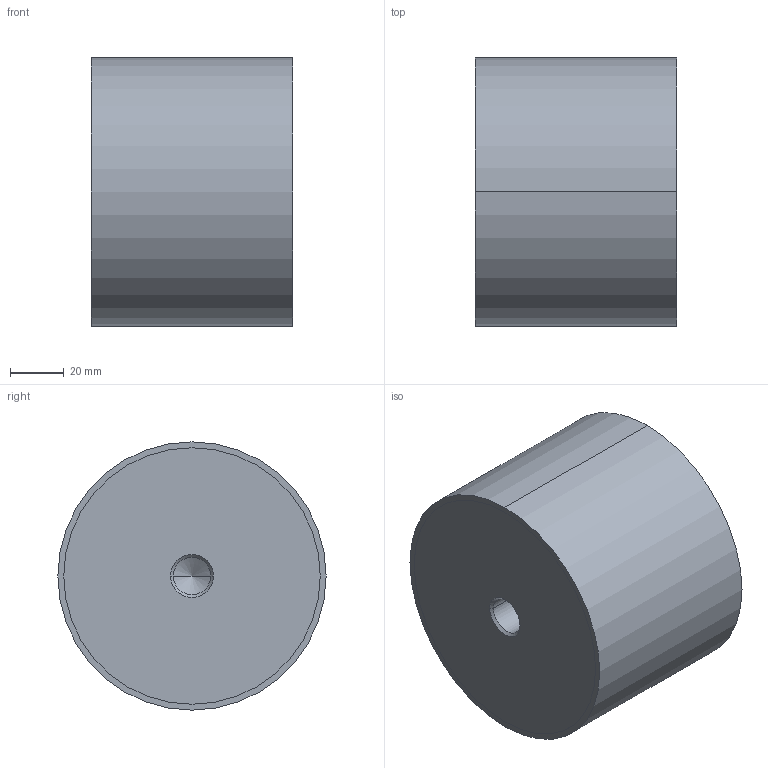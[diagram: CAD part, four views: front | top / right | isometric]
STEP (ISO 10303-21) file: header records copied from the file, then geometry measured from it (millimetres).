
FILE_DESCRIPTION (( 'STEP AP214' ), '1' );
FILE_NAME ('451-100-75-M16-EE-55.step', '2020-03-05T09:09:38', ( '' ), ( '' ), 'SwSTEP 2.0', 'SolidWorks 2019', '' );
FILE_SCHEMA (( 'AUTOMOTIVE_DESIGN' ));
Length unit declared in the file: millimetre
Products named in the file (1): 451-100-75-M16-EE-55
Bounding box: 75 x 100 x 100 mm (x, y, z)
Volume: 583505.3 mm3; surface area: 40685.3 mm2
Topology: 1 solids, 1 shells, 22 faces, 46 edges, 26 vertices
Faces by surface type: cylinder 10, cone 8, plane 4
Entity records: 684 total; most frequent: DIRECTION 112, CARTESIAN_POINT 91, ORIENTED_EDGE 84, AXIS2_PLACEMENT_3D 47, EDGE_CURVE 42, EDGE_LOOP 26, VERTEX_POINT 26, CIRCLE 24
